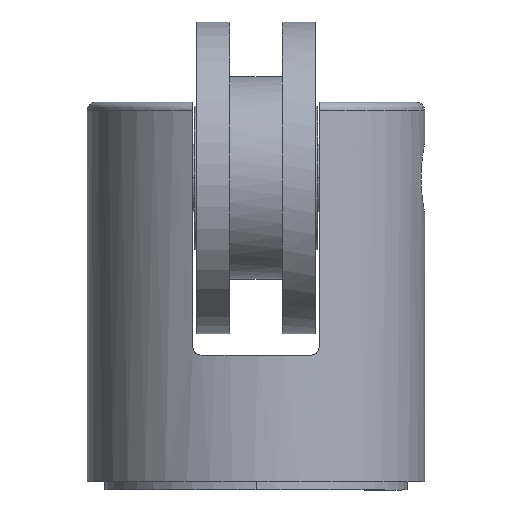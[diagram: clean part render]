
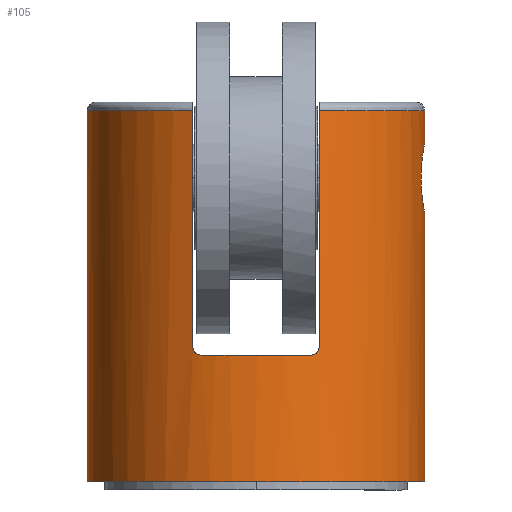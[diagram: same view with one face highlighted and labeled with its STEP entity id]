
A CAD part, front view. The second image highlights one B-rep face of the part: STEP entity #105.
In plain terms, the highlighted cylindrical face has radius 20 mm (diameter 40 mm), a partial arc.
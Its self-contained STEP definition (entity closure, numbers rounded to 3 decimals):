
#105=ADVANCED_FACE('',(#182),#1195,.T.);
#182=FACE_OUTER_BOUND('',#265,.T.);
#265=EDGE_LOOP('',(#413,#414,#415,#416,#417,#418,#419,#420,#421,#422,#423,
#424));
#413=ORIENTED_EDGE('',*,*,#787,.T.);
#414=ORIENTED_EDGE('',*,*,#788,.T.);
#415=ORIENTED_EDGE('',*,*,#737,.F.);
#416=ORIENTED_EDGE('',*,*,#770,.T.);
#417=ORIENTED_EDGE('',*,*,#738,.F.);
#418=ORIENTED_EDGE('',*,*,#730,.T.);
#419=ORIENTED_EDGE('',*,*,#731,.T.);
#420=ORIENTED_EDGE('',*,*,#751,.T.);
#421=ORIENTED_EDGE('',*,*,#732,.T.);
#422=ORIENTED_EDGE('',*,*,#750,.T.);
#423=ORIENTED_EDGE('',*,*,#733,.T.);
#424=ORIENTED_EDGE('',*,*,#734,.T.);
#730=EDGE_CURVE('',#1074,#1075,#975,.T.);
#731=EDGE_CURVE('',#1075,#1076,#879,.T.);
#732=EDGE_CURVE('',#1077,#1078,#976,.T.);
#733=EDGE_CURVE('',#1079,#1080,#880,.T.);
#734=EDGE_CURVE('',#1080,#1110,#977,.T.);
#737=EDGE_CURVE('',#1083,#1071,#882,.T.);
#738=EDGE_CURVE('',#1074,#1084,#883,.T.);
#750=EDGE_CURVE('',#1078,#1079,#895,.T.);
#751=EDGE_CURVE('',#1076,#1077,#896,.T.);
#770=EDGE_CURVE('',#1083,#1084,#902,.T.);
#787=EDGE_CURVE('',#1110,#1111,#910,.T.);
#788=EDGE_CURVE('',#1111,#1071,#1001,.T.);
#879=B_SPLINE_CURVE_WITH_KNOTS('',1,(#1923,#1924),.UNSPECIFIED.,.F.,.F.,
(2,2),(0.,28.),.UNSPECIFIED.);
#880=B_SPLINE_CURVE_WITH_KNOTS('',1,(#1928,#1929),.UNSPECIFIED.,.F.,.F.,
(2,2),(0.,28.),.UNSPECIFIED.);
#882=B_SPLINE_CURVE_WITH_KNOTS('',1,(#1938,#1939),.UNSPECIFIED.,.F.,.F.,
(2,2),(17.109,49.01),.UNSPECIFIED.);
#883=B_SPLINE_CURVE_WITH_KNOTS('',1,(#1940,#1941),.UNSPECIFIED.,.F.,.F.,
(2,2),(5.01,8.91),.UNSPECIFIED.);
#895=B_SPLINE_CURVE_WITH_KNOTS('',3,(#2034,#2035,#2036,#2037,#2038,#2039,
#2040,#2041,#2042,#2043,#2044,#2045,#2046,#2047,#2048,#2049),
 .UNSPECIFIED.,.F.,.F.,(4,3,3,3,3,4),(-1.631,-1.253,
-0.874,-0.503,-0.155,0.),
 .UNSPECIFIED.);
#896=B_SPLINE_CURVE_WITH_KNOTS('',3,(#2050,#2051,#2052,#2053,#2054,#2055,
#2056,#2057,#2058,#2059,#2060,#2061,#2062,#2063,#2064,#2065),
 .UNSPECIFIED.,.F.,.F.,(4,3,3,3,3,4),(-1.63,-1.308,
-0.988,-0.656,-0.302,0.),
 .UNSPECIFIED.);
#902=B_SPLINE_CURVE_WITH_KNOTS('',3,(#2170,#2171,#2172,#2173,#2174,#2175,
#2176,#2177,#2178,#2179,#2180,#2181,#2182,#2183,#2184,#2185,#2186,#2187,
#2188,#2189,#2190,#2191,#2192,#2193,#2194,#2195,#2196,#2197,#2198,#2199,
#2200),.UNSPECIFIED.,.F.,.F.,(4,3,3,3,3,3,3,3,3,3,4),(-12.976,
-12.458,-11.057,-9.659,-8.287,
-6.925,-5.541,-4.137,-2.746,
-1.374,0.),.UNSPECIFIED.);
#910=B_SPLINE_CURVE_WITH_KNOTS('',1,(#2268,#2269),.UNSPECIFIED.,.F.,.F.,
(2,2),(5.01,49.01),.UNSPECIFIED.);
#975=(
BOUNDED_CURVE()
B_SPLINE_CURVE(2,(#1920,#1921,#1922),.UNSPECIFIED.,.F.,.F.)
B_SPLINE_CURVE_WITH_KNOTS((3,3),(23.728,47.456),
 .UNSPECIFIED.)
CURVE()
GEOMETRIC_REPRESENTATION_ITEM()
RATIONAL_B_SPLINE_CURVE((1.,0.829,1.))
REPRESENTATION_ITEM('')
);
#976=(
BOUNDED_CURVE()
B_SPLINE_CURVE(2,(#1925,#1926,#1927),.UNSPECIFIED.,.F.,.F.)
B_SPLINE_CURVE_WITH_KNOTS((3,3),(0.,13.24),.UNSPECIFIED.)
CURVE()
GEOMETRIC_REPRESENTATION_ITEM()
RATIONAL_B_SPLINE_CURVE((1.,0.946,1.))
REPRESENTATION_ITEM('')
);
#977=(
BOUNDED_CURVE()
B_SPLINE_CURVE(2,(#1930,#1931,#1932),.UNSPECIFIED.,.F.,.F.)
B_SPLINE_CURVE_WITH_KNOTS((3,3),(0.,23.728),.UNSPECIFIED.)
CURVE()
GEOMETRIC_REPRESENTATION_ITEM()
RATIONAL_B_SPLINE_CURVE((1.,0.829,1.))
REPRESENTATION_ITEM('')
);
#1001=(
BOUNDED_CURVE()
B_SPLINE_CURVE(2,(#2270,#2271,#2272,#2273,#2274),.UNSPECIFIED.,.F.,.F.)
B_SPLINE_CURVE_WITH_KNOTS((3,2,3),(62.832,94.248,125.664),
 .UNSPECIFIED.)
CURVE()
GEOMETRIC_REPRESENTATION_ITEM()
RATIONAL_B_SPLINE_CURVE((1.,0.707,1.,0.707,1.))
REPRESENTATION_ITEM('')
);
#1071=VERTEX_POINT('',#1858);
#1074=VERTEX_POINT('',#1861);
#1075=VERTEX_POINT('',#1862);
#1076=VERTEX_POINT('',#1863);
#1077=VERTEX_POINT('',#1864);
#1078=VERTEX_POINT('',#1865);
#1079=VERTEX_POINT('',#1866);
#1080=VERTEX_POINT('',#1867);
#1083=VERTEX_POINT('',#1870);
#1084=VERTEX_POINT('',#1871);
#1110=VERTEX_POINT('',#1897);
#1111=VERTEX_POINT('',#1898);
#1195=CYLINDRICAL_SURFACE('',#1260,20.);
#1260=AXIS2_PLACEMENT_3D('',#1566,#1327,$);
#1327=DIRECTION('',(0.,0.,-1.));
#1566=CARTESIAN_POINT('',(0.,0.,-23.));
#1858=CARTESIAN_POINT('',(20.,0.,-45.));
#1861=CARTESIAN_POINT('',(20.,0.,-1.));
#1862=CARTESIAN_POINT('',(7.5,-18.54,-1.));
#1863=CARTESIAN_POINT('',(7.5,-18.54,-29.));
#1864=CARTESIAN_POINT('',(6.5,-18.914,-30.));
#1865=CARTESIAN_POINT('',(-6.5,-18.914,-30.));
#1866=CARTESIAN_POINT('',(-7.5,-18.54,-29.));
#1867=CARTESIAN_POINT('',(-7.5,-18.54,-1.));
#1870=CARTESIAN_POINT('',(20.,0.,-13.1));
#1871=CARTESIAN_POINT('',(20.,0.,-4.9));
#1897=CARTESIAN_POINT('',(-20.,0.,-1.));
#1898=CARTESIAN_POINT('',(-20.,0.,-45.));
#1920=CARTESIAN_POINT('',(20.,0.,-1.));
#1921=CARTESIAN_POINT('',(20.,-13.484,-1.));
#1922=CARTESIAN_POINT('',(7.5,-18.54,-1.));
#1923=CARTESIAN_POINT('',(7.5,-18.54,-1.));
#1924=CARTESIAN_POINT('',(7.5,-18.54,-29.));
#1925=CARTESIAN_POINT('',(6.5,-18.914,-30.));
#1926=CARTESIAN_POINT('',(0.,-21.148,-30.));
#1927=CARTESIAN_POINT('',(-6.5,-18.914,-30.));
#1928=CARTESIAN_POINT('',(-7.5,-18.54,-29.));
#1929=CARTESIAN_POINT('',(-7.5,-18.54,-1.));
#1930=CARTESIAN_POINT('',(-7.5,-18.54,-1.));
#1931=CARTESIAN_POINT('',(-20.,-13.484,-1.));
#1932=CARTESIAN_POINT('',(-20.,0.,-1.));
#1938=CARTESIAN_POINT('',(20.,0.,-13.1));
#1939=CARTESIAN_POINT('',(20.,0.,-45.));
#1940=CARTESIAN_POINT('',(20.,0.,-1.));
#1941=CARTESIAN_POINT('',(20.,0.,-4.9));
#2034=CARTESIAN_POINT('',(-6.5,-18.914,-30.));
#2035=CARTESIAN_POINT('',(-6.618,-18.874,-30.));
#2036=CARTESIAN_POINT('',(-6.738,-18.831,-29.979));
#2037=CARTESIAN_POINT('',(-6.848,-18.791,-29.937));
#2038=CARTESIAN_POINT('',(-6.959,-18.751,-29.896));
#2039=CARTESIAN_POINT('',(-7.065,-18.711,-29.834));
#2040=CARTESIAN_POINT('',(-7.155,-18.676,-29.755));
#2041=CARTESIAN_POINT('',(-7.244,-18.642,-29.678));
#2042=CARTESIAN_POINT('',(-7.321,-18.612,-29.583));
#2043=CARTESIAN_POINT('',(-7.379,-18.589,-29.477));
#2044=CARTESIAN_POINT('',(-7.433,-18.568,-29.378));
#2045=CARTESIAN_POINT('',(-7.47,-18.552,-29.267));
#2046=CARTESIAN_POINT('',(-7.488,-18.545,-29.154));
#2047=CARTESIAN_POINT('',(-7.496,-18.542,-29.103));
#2048=CARTESIAN_POINT('',(-7.5,-18.54,-29.052));
#2049=CARTESIAN_POINT('',(-7.5,-18.54,-29.));
#2050=CARTESIAN_POINT('',(7.5,-18.54,-29.));
#2051=CARTESIAN_POINT('',(7.5,-18.54,-29.106));
#2052=CARTESIAN_POINT('',(7.483,-18.548,-29.214));
#2053=CARTESIAN_POINT('',(7.45,-18.561,-29.314));
#2054=CARTESIAN_POINT('',(7.417,-18.574,-29.414));
#2055=CARTESIAN_POINT('',(7.367,-18.594,-29.509));
#2056=CARTESIAN_POINT('',(7.306,-18.618,-29.592));
#2057=CARTESIAN_POINT('',(7.243,-18.643,-29.678));
#2058=CARTESIAN_POINT('',(7.166,-18.672,-29.754));
#2059=CARTESIAN_POINT('',(7.08,-18.705,-29.814));
#2060=CARTESIAN_POINT('',(6.989,-18.739,-29.879));
#2061=CARTESIAN_POINT('',(6.887,-18.777,-29.929));
#2062=CARTESIAN_POINT('',(6.781,-18.815,-29.96));
#2063=CARTESIAN_POINT('',(6.69,-18.848,-29.986));
#2064=CARTESIAN_POINT('',(6.595,-18.882,-30.));
#2065=CARTESIAN_POINT('',(6.5,-18.914,-30.));
#2170=CARTESIAN_POINT('',(20.,0.,-13.1));
#2171=CARTESIAN_POINT('',(20.,-0.172,-13.1));
#2172=CARTESIAN_POINT('',(19.998,-0.344,-13.089));
#2173=CARTESIAN_POINT('',(19.993,-0.514,-13.068));
#2174=CARTESIAN_POINT('',(19.982,-0.973,-13.01));
#2175=CARTESIAN_POINT('',(19.953,-1.427,-12.871));
#2176=CARTESIAN_POINT('',(19.915,-1.839,-12.664));
#2177=CARTESIAN_POINT('',(19.877,-2.25,-12.458));
#2178=CARTESIAN_POINT('',(19.829,-2.631,-12.178));
#2179=CARTESIAN_POINT('',(19.781,-2.95,-11.848));
#2180=CARTESIAN_POINT('',(19.735,-3.263,-11.524));
#2181=CARTESIAN_POINT('',(19.688,-3.525,-11.142));
#2182=CARTESIAN_POINT('',(19.652,-3.716,-10.733));
#2183=CARTESIAN_POINT('',(19.616,-3.905,-10.326));
#2184=CARTESIAN_POINT('',(19.59,-4.029,-9.882));
#2185=CARTESIAN_POINT('',(19.58,-4.077,-9.434));
#2186=CARTESIAN_POINT('',(19.57,-4.125,-8.98));
#2187=CARTESIAN_POINT('',(19.576,-4.096,-8.511));
#2188=CARTESIAN_POINT('',(19.598,-3.992,-8.066));
#2189=CARTESIAN_POINT('',(19.619,-3.887,-7.615));
#2190=CARTESIAN_POINT('',(19.656,-3.701,-7.177));
#2191=CARTESIAN_POINT('',(19.7,-3.453,-6.789));
#2192=CARTESIAN_POINT('',(19.743,-3.206,-6.404));
#2193=CARTESIAN_POINT('',(19.793,-2.89,-6.056));
#2194=CARTESIAN_POINT('',(19.839,-2.531,-5.774));
#2195=CARTESIAN_POINT('',(19.884,-2.176,-5.496));
#2196=CARTESIAN_POINT('',(19.926,-1.769,-5.274));
#2197=CARTESIAN_POINT('',(19.955,-1.341,-5.126));
#2198=CARTESIAN_POINT('',(19.984,-0.913,-4.977));
#2199=CARTESIAN_POINT('',(20.,-0.454,-4.9));
#2200=CARTESIAN_POINT('',(20.,0.,-4.9));
#2268=CARTESIAN_POINT('',(-20.,0.,-1.));
#2269=CARTESIAN_POINT('',(-20.,0.,-45.));
#2270=CARTESIAN_POINT('',(-20.,0.,-45.));
#2271=CARTESIAN_POINT('',(-20.,-20.,-45.));
#2272=CARTESIAN_POINT('',(0.,-20.,-45.));
#2273=CARTESIAN_POINT('',(20.,-20.,-45.));
#2274=CARTESIAN_POINT('',(20.,0.,-45.));
